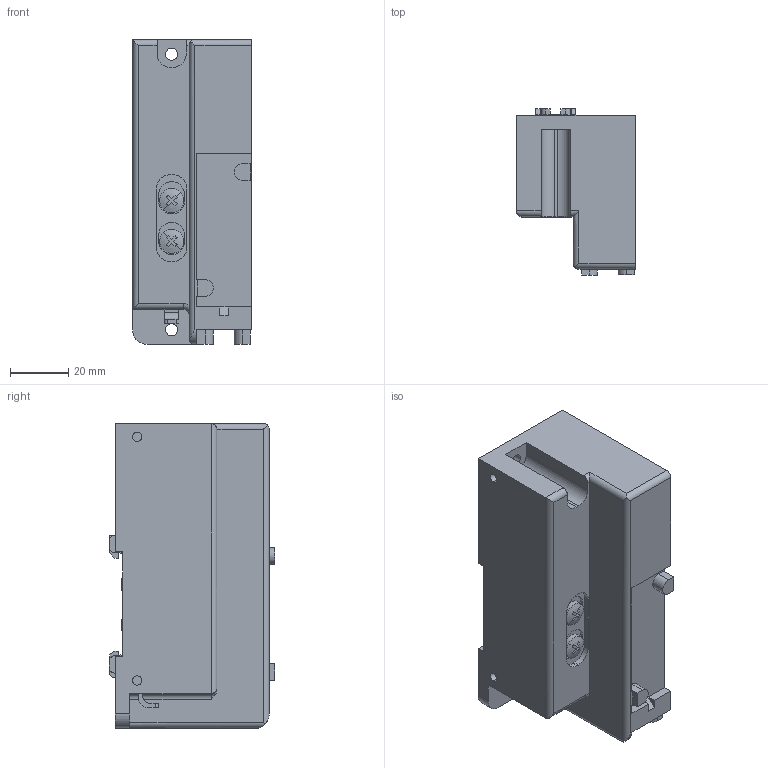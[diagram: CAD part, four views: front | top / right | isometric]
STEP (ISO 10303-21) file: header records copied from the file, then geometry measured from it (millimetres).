
FILE_DESCRIPTION( (''), '2;1');
FILE_NAME ('CVICAD02.5208.F15ZX_LK-DN_21423.stp','2021-07-12T19:12:27',(''),(''),'spGate 12.6.6','','');
FILE_SCHEMA (('AUTOMOTIVE_DESIGN'));
Length unit declared in the file: millimetre
Bounding box: 41 x 57.2 x 105 mm (x, y, z)
Volume: 168894.7 mm3; surface area: 25516.7 mm2
Topology: 1 solids, 1 shells, 322 faces, 880 edges, 585 vertices
Faces by surface type: plane 234, cylinder 83, sphere 4, bspline 1
Entity records: 17139 total; most frequent: CARTESIAN_POINT 1878, ORIENTED_EDGE 1760, DIRECTION 1677, COLOUR_RGB 1203, PRESENTATION_STYLE_ASSIGNMENT 1203, STYLED_ITEM 1203, EDGE_CURVE 880, DRAUGHTING_PRE_DEFINED_CURVE_FONT 880
